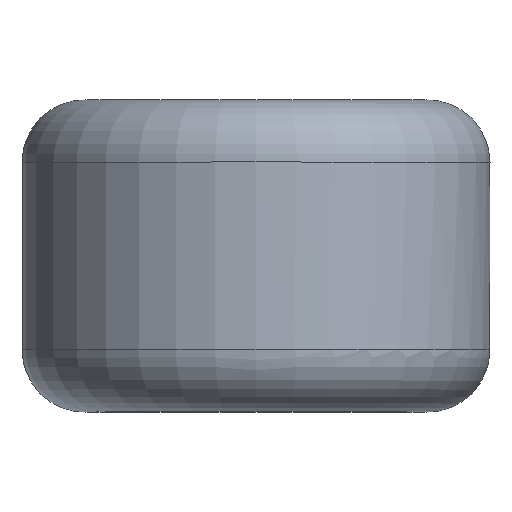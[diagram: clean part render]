
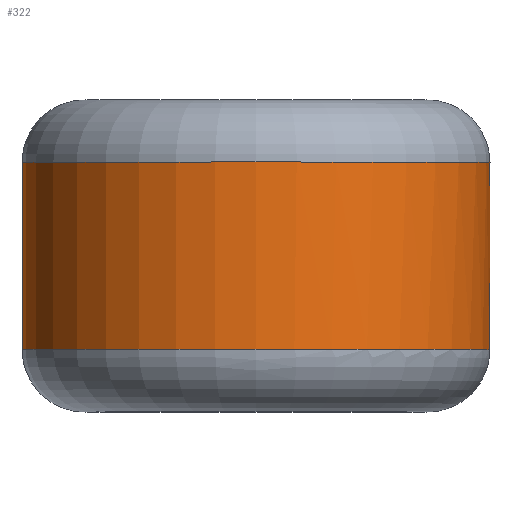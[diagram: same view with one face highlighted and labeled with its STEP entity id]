
A CAD part, top view. The second image highlights one B-rep face of the part: STEP entity #322.
In plain terms, the highlighted cylindrical face has radius 3.75 mm (diameter 7.5 mm), a full revolution.
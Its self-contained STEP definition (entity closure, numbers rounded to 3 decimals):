
#26=B_SPLINE_CURVE_WITH_KNOTS('',3,(#896,#897,#898,#899,#900,#901,#902,
#903,#904,#905,#906,#907),.UNSPECIFIED.,.F.,.F.,(4,1,1,1,2,1,1,1,4),(-0.214,
-0.193,-0.173,-0.121,-0.111,
-0.066,-0.044,-0.022,0.),
 .UNSPECIFIED.);
#28=B_SPLINE_CURVE_WITH_KNOTS('',3,(#981,#982,#983,#984,#985,#986,#987,
#988,#989,#990),.UNSPECIFIED.,.F.,.F.,(4,1,1,2,1,1,4),(-0.214,
-0.183,-0.152,-0.111,-0.044,
-0.022,0.),.UNSPECIFIED.);
#76=FACE_OUTER_BOUND('',#96,.T.);
#96=EDGE_LOOP('',(#257,#258,#259,#260,#261,#262,#263,#264,#265,#266));
#109=LINE('',#975,#112);
#112=VECTOR('',#427,3.75);
#124=CIRCLE('',#367,3.75);
#125=CIRCLE('',#368,3.75);
#126=CIRCLE('',#369,3.75);
#127=CIRCLE('',#371,3.75);
#128=CIRCLE('',#372,3.75);
#129=CIRCLE('',#373,3.75);
#149=VERTEX_POINT('',#892);
#150=VERTEX_POINT('',#894);
#153=VERTEX_POINT('',#967);
#154=VERTEX_POINT('',#970);
#155=VERTEX_POINT('',#974);
#156=VERTEX_POINT('',#976);
#157=VERTEX_POINT('',#978);
#158=VERTEX_POINT('',#980);
#186=EDGE_CURVE('',#149,#150,#26,.T.);
#191=EDGE_CURVE('',#150,#153,#124,.T.);
#192=EDGE_CURVE('',#154,#149,#125,.T.);
#193=EDGE_CURVE('',#153,#154,#126,.T.);
#194=EDGE_CURVE('',#154,#155,#109,.T.);
#195=EDGE_CURVE('',#155,#156,#127,.T.);
#196=EDGE_CURVE('',#156,#157,#128,.T.);
#197=EDGE_CURVE('',#157,#158,#28,.T.);
#198=EDGE_CURVE('',#158,#155,#129,.T.);
#257=ORIENTED_EDGE('',*,*,#186,.T.);
#258=ORIENTED_EDGE('',*,*,#191,.T.);
#259=ORIENTED_EDGE('',*,*,#193,.T.);
#260=ORIENTED_EDGE('',*,*,#194,.T.);
#261=ORIENTED_EDGE('',*,*,#195,.T.);
#262=ORIENTED_EDGE('',*,*,#196,.T.);
#263=ORIENTED_EDGE('',*,*,#197,.T.);
#264=ORIENTED_EDGE('',*,*,#198,.T.);
#265=ORIENTED_EDGE('',*,*,#194,.F.);
#266=ORIENTED_EDGE('',*,*,#192,.T.);
#312=CYLINDRICAL_SURFACE('',#370,3.75);
#322=ADVANCED_FACE('',(#76),#312,.T.);
#367=AXIS2_PLACEMENT_3D('',#969,#419,#420);
#368=AXIS2_PLACEMENT_3D('',#971,#421,#422);
#369=AXIS2_PLACEMENT_3D('',#972,#423,#424);
#370=AXIS2_PLACEMENT_3D('',#973,#425,#426);
#371=AXIS2_PLACEMENT_3D('',#977,#428,#429);
#372=AXIS2_PLACEMENT_3D('',#979,#430,#431);
#373=AXIS2_PLACEMENT_3D('',#991,#432,#433);
#419=DIRECTION('center_axis',(0.,-1.,0.));
#420=DIRECTION('ref_axis',(-1.,0.,0.));
#421=DIRECTION('center_axis',(0.,-1.,0.));
#422=DIRECTION('ref_axis',(-1.,0.,0.));
#423=DIRECTION('center_axis',(0.,-1.,0.));
#424=DIRECTION('ref_axis',(-1.,0.,0.));
#425=DIRECTION('center_axis',(0.,-1.,0.));
#426=DIRECTION('ref_axis',(1.,0.,0.));
#427=DIRECTION('',(0.,-1.,0.));
#428=DIRECTION('center_axis',(0.,1.,0.));
#429=DIRECTION('ref_axis',(-1.,0.,0.));
#430=DIRECTION('center_axis',(0.,1.,0.));
#431=DIRECTION('ref_axis',(-1.,0.,0.));
#432=DIRECTION('center_axis',(0.,1.,0.));
#433=DIRECTION('ref_axis',(-1.,0.,0.));
#892=CARTESIAN_POINT('',(-2.324,1.5,-2.943));
#894=CARTESIAN_POINT('',(-1.396,1.5,-3.481));
#896=CARTESIAN_POINT('Ctrl Pts',(-2.324,1.5,-2.943));
#897=CARTESIAN_POINT('Ctrl Pts',(-2.34,1.435,-2.93));
#898=CARTESIAN_POINT('Ctrl Pts',(-2.354,1.296,-2.919));
#899=CARTESIAN_POINT('Ctrl Pts',(-2.299,0.987,-2.964));
#900=CARTESIAN_POINT('Ctrl Pts',(-2.117,0.793,-3.101));
#901=CARTESIAN_POINT('Ctrl Pts',(-1.944,0.767,-3.207));
#902=CARTESIAN_POINT('Ctrl Pts',(-1.791,0.758,-3.298));
#903=CARTESIAN_POINT('Ctrl Pts',(-1.594,0.833,-3.398));
#904=CARTESIAN_POINT('Ctrl Pts',(-1.417,1.062,-3.472));
#905=CARTESIAN_POINT('Ctrl Pts',(-1.355,1.279,-3.497));
#906=CARTESIAN_POINT('Ctrl Pts',(-1.373,1.43,-3.49));
#907=CARTESIAN_POINT('Ctrl Pts',(-1.396,1.5,-3.481));
#967=CARTESIAN_POINT('',(0.,1.5,-3.75));
#969=CARTESIAN_POINT('Origin',(0.,1.5,0.));
#970=CARTESIAN_POINT('',(-3.75,1.5,0.));
#971=CARTESIAN_POINT('Origin',(0.,1.5,0.));
#972=CARTESIAN_POINT('Origin',(0.,1.5,0.));
#973=CARTESIAN_POINT('Origin',(0.,0.,0.));
#974=CARTESIAN_POINT('',(-3.75,-1.5,0.));
#975=CARTESIAN_POINT('',(-3.75,0.,0.));
#976=CARTESIAN_POINT('',(0.,-1.5,3.75));
#977=CARTESIAN_POINT('Origin',(0.,-1.5,0.));
#978=CARTESIAN_POINT('',(2.324,-1.5,-2.943));
#979=CARTESIAN_POINT('Origin',(0.,-1.5,0.));
#980=CARTESIAN_POINT('',(1.396,-1.5,-3.481));
#981=CARTESIAN_POINT('Ctrl Pts',(2.324,-1.5,-2.943));
#982=CARTESIAN_POINT('Ctrl Pts',(2.348,-1.402,-2.924));
#983=CARTESIAN_POINT('Ctrl Pts',(2.355,-1.187,-2.919));
#984=CARTESIAN_POINT('Ctrl Pts',(2.22,-0.874,-3.026));
#985=CARTESIAN_POINT('Ctrl Pts',(2.03,-0.771,-3.156));
#986=CARTESIAN_POINT('Ctrl Pts',(1.729,-0.753,-3.336));
#987=CARTESIAN_POINT('Ctrl Pts',(1.459,-0.915,-3.457));
#988=CARTESIAN_POINT('Ctrl Pts',(1.355,-1.28,-3.496));
#989=CARTESIAN_POINT('Ctrl Pts',(1.373,-1.43,-3.49));
#990=CARTESIAN_POINT('Ctrl Pts',(1.396,-1.5,-3.481));
#991=CARTESIAN_POINT('Origin',(0.,-1.5,0.));
